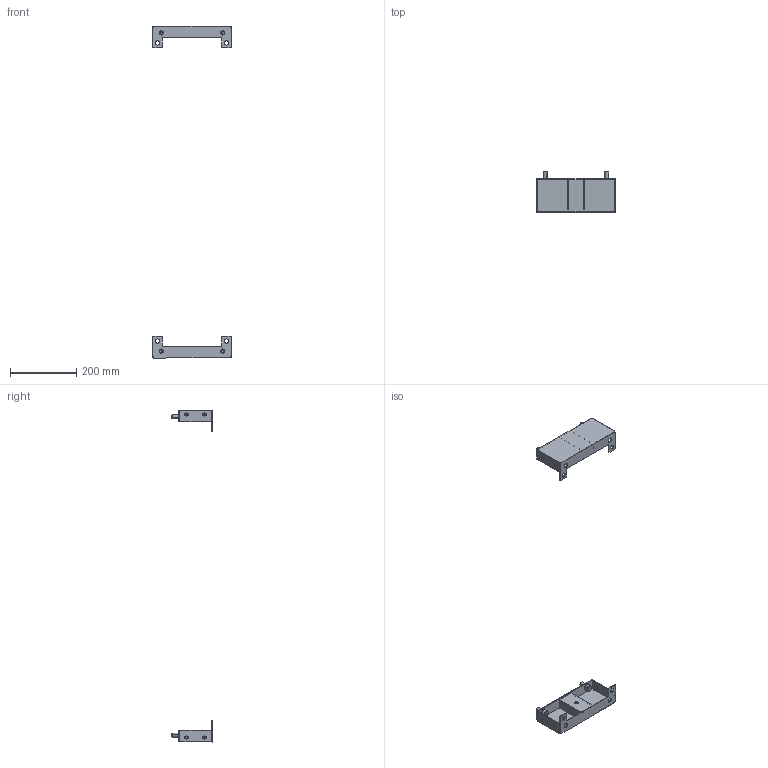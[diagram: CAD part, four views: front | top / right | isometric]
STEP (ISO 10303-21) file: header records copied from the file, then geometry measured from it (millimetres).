
FILE_DESCRIPTION (( 'STEP AP203' ), '1' );
FILE_NAME ('R6PLB30 H=1000.STEP', '2025-05-16T11:42:00', ( '' ), ( '' ), 'SwSTEP 2.0', 'SolidWorks 2022', '' );
FILE_SCHEMA (( 'CONFIG_CONTROL_DESIGN' ));
Length unit declared in the file: millimetre
Products named in the file (8): 12 DIN 6798 A Zinc; R6PLB30 H=1000; RB.3309.00.00.0 СБ simple_-01; M6 MGS-MPO-0635_straight; RB.3309.00.01.0 simple_-01; M6 MGS-MPO-0635_thread; RB.3309.00.02.0 simple; M12x25 DIN 912 HX cl.8,8 Zinc_stright
Assembly tree (17 placements, depth 3):
  R6PLB30 H=1000
    RB.3309.00.00.0 СБ simple_-01  x2
      RB.3309.00.01.0 simple_-01
      M6 MGS-MPO-0635_thread
      RB.3309.00.02.0 simple
      M6 MGS-MPO-0635_straight
    12 DIN 6798 A Zinc  x4
    M12x25 DIN 912 HX cl.8,8 Zinc_stright  x4
Bounding box: 236.7 x 121.5 x 1000 mm (x, y, z)
Volume: 302950.7 mm3; surface area: 250656.7 mm2
Topology: 22 solids, 22 shells, 1388 faces, 3688 edges, 2136 vertices
Faces by surface type: plane 548, cylinder 484, bspline 168, sphere 120, cone 36, torus 32
Entity records: 14938 total; most frequent: CARTESIAN_POINT 5753, ORIENTED_EDGE 1768, DIRECTION 1535, EDGE_CURVE 884, VERTEX_POINT 558, LINE 533, VECTOR 533, AXIS2_PLACEMENT_3D 501
